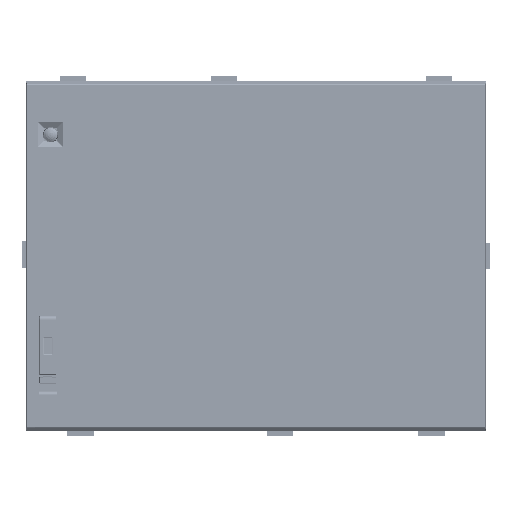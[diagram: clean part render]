
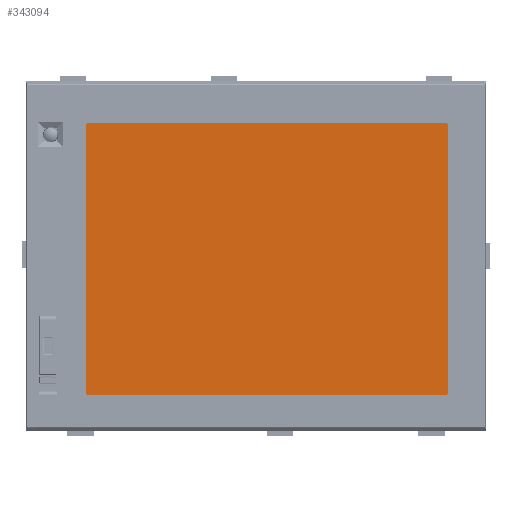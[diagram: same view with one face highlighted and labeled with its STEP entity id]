
A CAD part, top view. The second image highlights one B-rep face of the part: STEP entity #343094.
In plain terms, the highlighted planar face has unit normal (0, 0, 1).
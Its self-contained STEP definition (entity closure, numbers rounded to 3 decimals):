
#131914=DIRECTION('',(-1.,0.,0.));
#131915=VECTOR('',#131914,246.);
#131916=CARTESIAN_POINT('',(130.5,91.25,-0.1));
#131917=LINE('',#131916,#131915);
#131930=DIRECTION('',(0.,1.,0.));
#131931=VECTOR('',#131930,184.5);
#131932=CARTESIAN_POINT('',(131.5,-94.25,-0.1));
#131933=LINE('',#131932,#131931);
#131946=DIRECTION('',(1.,0.,0.));
#131947=VECTOR('',#131946,246.);
#131948=CARTESIAN_POINT('',(-115.5,-95.25,-0.1));
#131949=LINE('',#131948,#131947);
#131962=DIRECTION('',(0.,-1.,0.));
#131963=VECTOR('',#131962,184.5);
#131964=CARTESIAN_POINT('',(-116.5,90.25,-0.1));
#131965=LINE('',#131964,#131963);
#131974=CARTESIAN_POINT('',(130.5,90.25,-0.1));
#131975=DIRECTION('',(0.,0.,-1.));
#131976=DIRECTION('',(0.,1.,0.));
#131977=AXIS2_PLACEMENT_3D('',#131974,#131975,#131976);
#131979=CARTESIAN_POINT('',(130.5,-94.25,-0.1));
#131980=DIRECTION('',(0.,0.,-1.));
#131981=DIRECTION('',(1.,0.,0.));
#131982=AXIS2_PLACEMENT_3D('',#131979,#131980,#131981);
#131984=CARTESIAN_POINT('',(-115.5,-94.25,-0.1));
#131985=DIRECTION('',(0.,0.,-1.));
#131986=DIRECTION('',(0.,-1.,0.));
#131987=AXIS2_PLACEMENT_3D('',#131984,#131985,#131986);
#131989=CARTESIAN_POINT('',(-115.5,90.25,-0.1));
#131990=DIRECTION('',(0.,0.,-1.));
#131991=DIRECTION('',(-1.,0.,0.));
#131992=AXIS2_PLACEMENT_3D('',#131989,#131990,#131991);
#167290=CARTESIAN_POINT('',(130.5,91.25,-0.1));
#167291=VERTEX_POINT('',#167290);
#167292=CARTESIAN_POINT('',(-115.5,91.25,-0.1));
#167293=VERTEX_POINT('',#167292);
#167294=CARTESIAN_POINT('',(131.5,90.25,-0.1));
#167295=VERTEX_POINT('',#167294);
#167296=CARTESIAN_POINT('',(131.5,-94.25,-0.1));
#167297=VERTEX_POINT('',#167296);
#167298=CARTESIAN_POINT('',(130.5,-95.25,-0.1));
#167299=VERTEX_POINT('',#167298);
#167300=CARTESIAN_POINT('',(-115.5,-95.25,-0.1));
#167301=VERTEX_POINT('',#167300);
#167302=CARTESIAN_POINT('',(-116.5,-94.25,-0.1));
#167303=VERTEX_POINT('',#167302);
#167304=CARTESIAN_POINT('',(-116.5,90.25,-0.1));
#167305=VERTEX_POINT('',#167304);
#343079=CARTESIAN_POINT('',(0.,0.,-0.1));
#343080=DIRECTION('',(0.,0.,1.));
#343081=DIRECTION('',(1.,0.,0.));
#343082=AXIS2_PLACEMENT_3D('',#343079,#343080,#343081);
#343083=PLANE('',#343082);
#343084=ORIENTED_EDGE('',*,*,#342975,.F.);
#343085=ORIENTED_EDGE('',*,*,#342990,.T.);
#343086=ORIENTED_EDGE('',*,*,#343004,.F.);
#343087=ORIENTED_EDGE('',*,*,#343018,.T.);
#343088=ORIENTED_EDGE('',*,*,#343032,.F.);
#343089=ORIENTED_EDGE('',*,*,#343046,.T.);
#343090=ORIENTED_EDGE('',*,*,#343060,.F.);
#343091=ORIENTED_EDGE('',*,*,#343073,.T.);
#343092=EDGE_LOOP('',(#343084,#343085,#343086,#343087,#343088,#343089,#343090,
#343091));
#343093=FACE_OUTER_BOUND('',#343092,.F.);
#343094=ADVANCED_FACE('',(#343093),#343083,.T.);
#131978=CIRCLE('',#131977,1.);
#131983=CIRCLE('',#131982,1.);
#131988=CIRCLE('',#131987,1.);
#131993=CIRCLE('',#131992,1.);
#342975=EDGE_CURVE('',#167291,#167293,#131917,.T.);
#342990=EDGE_CURVE('',#167291,#167295,#131978,.T.);
#343004=EDGE_CURVE('',#167297,#167295,#131933,.T.);
#343018=EDGE_CURVE('',#167297,#167299,#131983,.T.);
#343032=EDGE_CURVE('',#167301,#167299,#131949,.T.);
#343046=EDGE_CURVE('',#167301,#167303,#131988,.T.);
#343060=EDGE_CURVE('',#167305,#167303,#131965,.T.);
#343073=EDGE_CURVE('',#167305,#167293,#131993,.T.);
